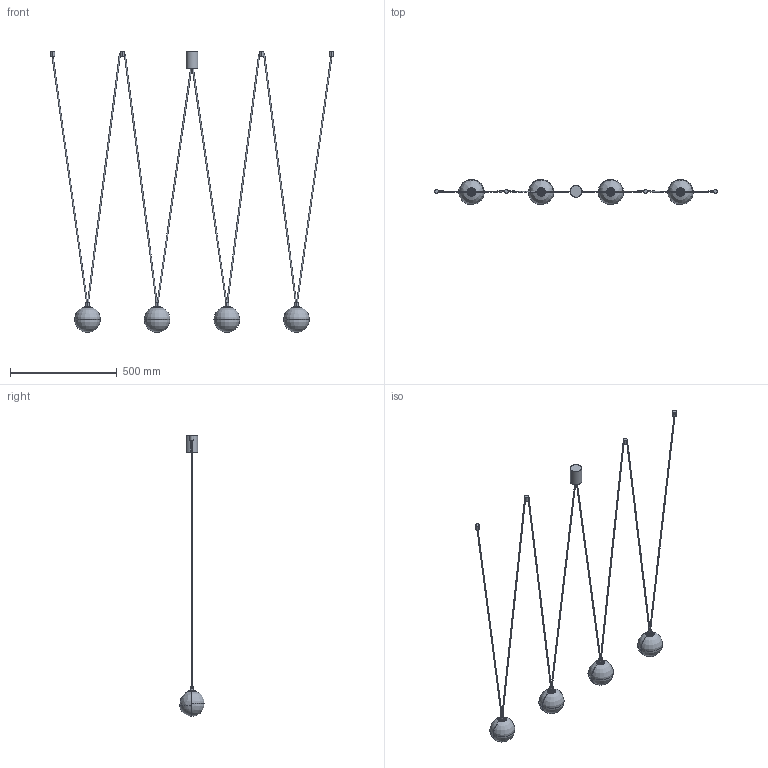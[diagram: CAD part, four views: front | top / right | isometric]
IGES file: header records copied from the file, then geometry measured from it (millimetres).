
Start section: SolidWorks IGES file using analytic representation for surfaces
Global section: file name: C:\Users\anna.bielnik\Desktop\modele 3D tymczasowe\SLING\SLING IV\SLING IV - z³o¿enie16_06 bbbbbb.IGS; native system: SolidWorks 2023; preprocessor: SolidWorks 2023; author: anna.bielnik; date: 230616.095153; units: millimetre
Bounding box: 1321.62 x 119.07 x 1310.87 mm (x, y, z)
Surface area: 539749 mm2 (no closed solid volume)
Topology: 0 solids, 0 shells, 420 faces, 4728 edges, 4716 vertices
Faces by surface type: revolution 334, bspline 86
